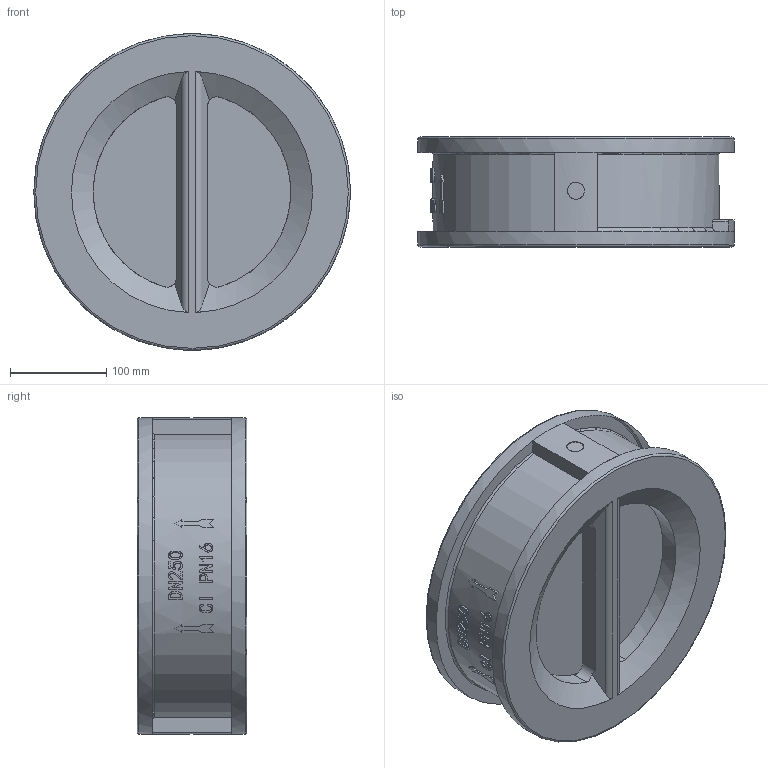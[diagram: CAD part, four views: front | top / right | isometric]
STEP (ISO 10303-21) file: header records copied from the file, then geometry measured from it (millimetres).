
FILE_DESCRIPTION(/* description */ ('STEP AP214'),/* implementation_level */ '2;1');
FILE_NAME(/* name */ 'RSV30 DN250.stp',/* time_stamp */ '2024-07-04T16:02:37+07:00',/* author */ ('Eva'),/* organization */ (''),/* preprocessor_version */ 'ST-DEVELOPER v20',/* originating_system */ 'Autodesk Inventor 2025',/* authorisation */ '');
FILE_SCHEMA (('AUTOMOTIVE_DESIGN { 1 0 10303 214 3 1 1 }'));
Length unit declared in the file: millimetre
Products named in the file (1): 250Ö¹»Ø
Bounding box: 328 x 114 x 328 mm (x, y, z)
Volume: 3687278.5 mm3; surface area: 438188.2 mm2
Topology: 1 solids, 1 shells, 203 faces, 530 edges, 352 vertices
Faces by surface type: plane 121, cylinder 42, bspline 33, torus 5, cone 2
Full cylindrical faces by diameter (mm): 17.5 x5, 204.967 x1, 260 x1, 264 x1, 328 x2
Entity records: 15539 total; most frequent: CARTESIAN_POINT 10579, ORIENTED_EDGE 1060, DIRECTION 962, EDGE_CURVE 530, AXIS2_PLACEMENT_3D 353, VERTEX_POINT 352, LINE 256, VECTOR 256
